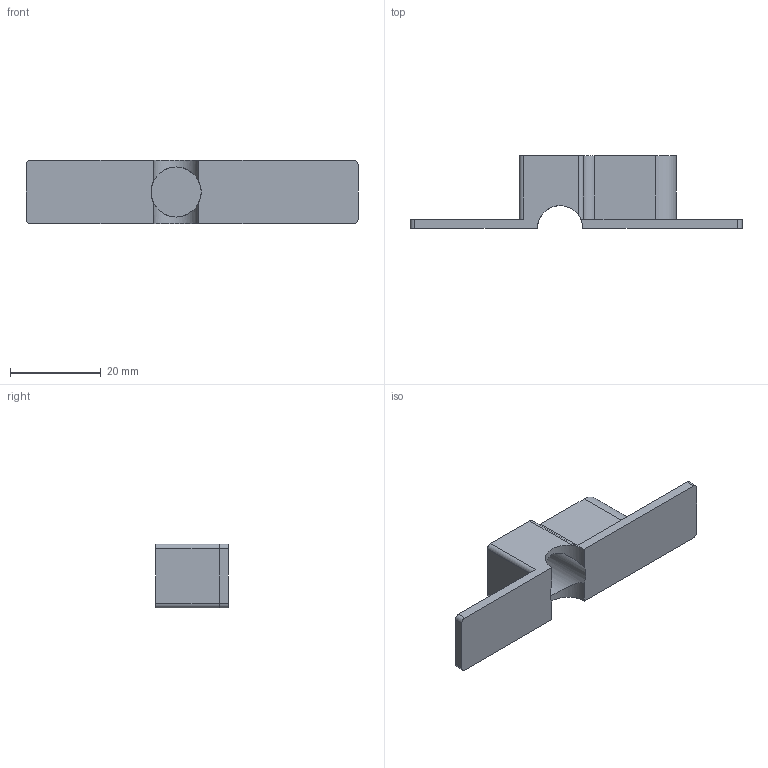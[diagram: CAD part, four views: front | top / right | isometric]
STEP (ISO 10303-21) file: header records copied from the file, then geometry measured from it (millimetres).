
FILE_DESCRIPTION (( 'STEP AP203' ), '1' );
FILE_NAME ('loquet baie.STEP', '2016-07-27T11:44:53', ( 'vrd' ), ( 'Microsoft' ), 'SwSTEP 2.0', 'SolidWorks 2015', '' );
FILE_SCHEMA (( 'CONFIG_CONTROL_DESIGN' ));
Length unit declared in the file: millimetre
Products named in the file (1): loquet baie
Bounding box: 73 x 16 x 14 mm (x, y, z)
Volume: 5720.6 mm3; surface area: 4120.8 mm2
Topology: 1 solids, 1 shells, 34 faces, 94 edges, 61 vertices
Faces by surface type: cylinder 17, plane 15, cone 2
Entity records: 1249 total; most frequent: CARTESIAN_POINT 290, DIRECTION 190, ORIENTED_EDGE 184, EDGE_CURVE 92, AXIS2_PLACEMENT_3D 69, VERTEX_POINT 61, VECTOR 52, LINE 52
